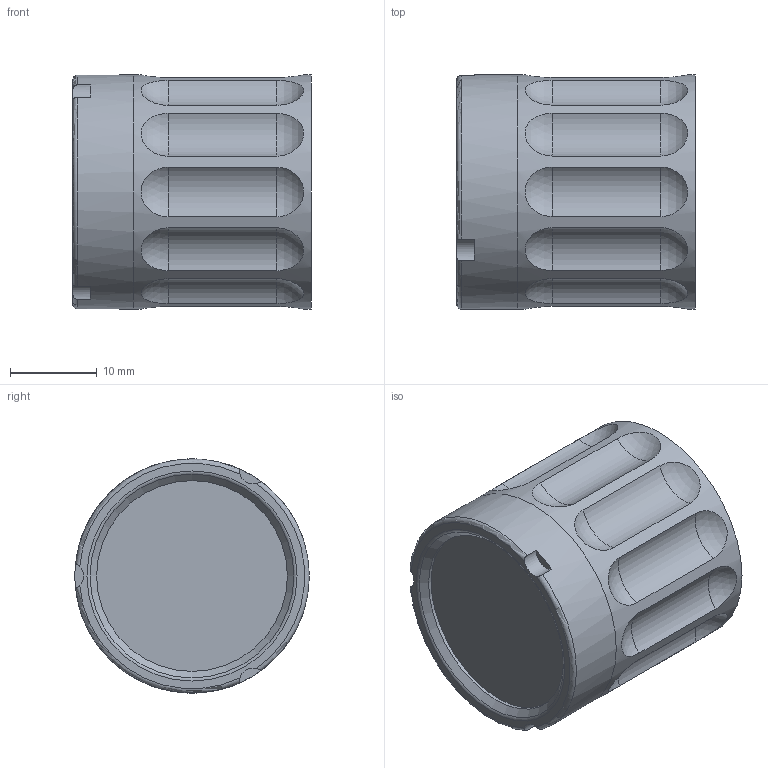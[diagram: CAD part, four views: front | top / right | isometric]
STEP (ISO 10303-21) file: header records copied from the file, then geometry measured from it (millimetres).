
FILE_DESCRIPTION(/* description */ ('ZB Objektiv-Schutzglocke, ø27 x 27,5'),/* implementation_level */ '2;1');
FILE_NAME(/* name */ 'KSM_275-20-0-22-00-a_ZB Objektiv-Schutzglocke 27 x 27,5.stp',/* time_stamp */ '2026-06-23T13:26:19+02:00',/* author */ ('khw'),/* organization */ ('TIS/ Germany'),/* preprocessor_version */ 'ST-DEVELOPER v20',/* originating_system */ 'Autodesk Inventor 2025',/* authorisation */ '6767,5 mm^3');
FILE_SCHEMA (('AUTOMOTIVE_DESIGN { 1 0 10303 214 3 1 1 }'));
Length unit declared in the file: millimetre
Products named in the file (1): KSM_275-20-0-22-00-a_ZB Objektiv-Schutzglocke ø27 x 27,5
Bounding box: 27.5 x 27 x 27 mm (x, y, z)
Volume: 5142.4 mm3; surface area: 5925.1 mm2
Topology: 2 solids, 2 shells, 61 faces, 127 edges, 84 vertices
Faces by surface type: sphere 24, cylinder 22, plane 10, torus 4, cone 1
Full cylindrical faces by diameter (mm): 21.19 x1, 22 x1, 23.8 x1, 24.4 x2, 27 x2
Entity records: 2204 total; most frequent: CARTESIAN_POINT 845, DIRECTION 275, ORIENTED_EDGE 254, EDGE_CURVE 127, AXIS2_PLACEMENT_3D 118, VERTEX_POINT 84, EDGE_LOOP 77, FACE_OUTER_BOUND 61
